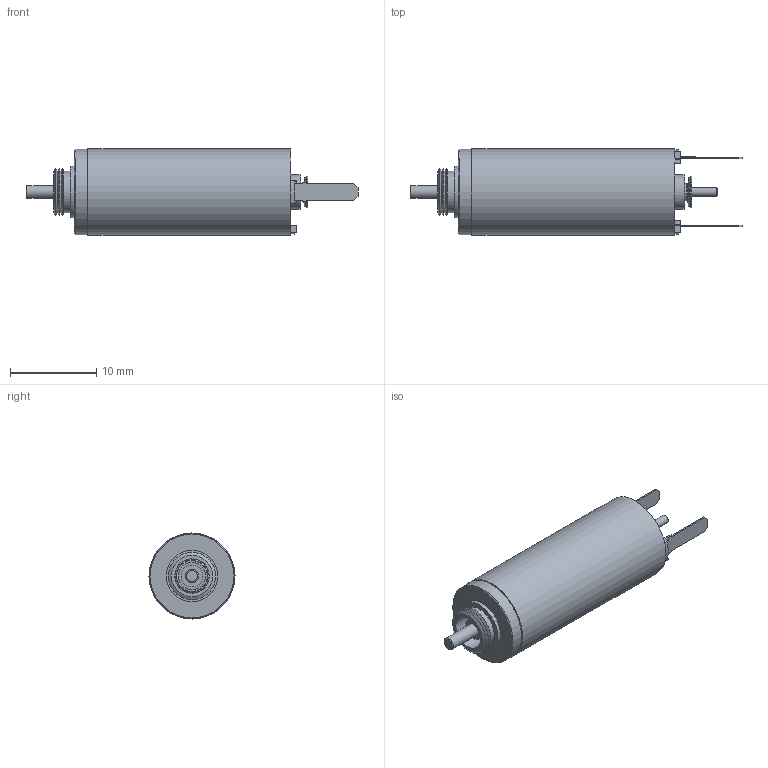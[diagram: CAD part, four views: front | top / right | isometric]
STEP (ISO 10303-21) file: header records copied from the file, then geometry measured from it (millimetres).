
FILE_DESCRIPTION(/* description */ (''),/* implementation_level */ '2;1');
FILE_NAME(/* name */ 'C:\Users\raffaele\Downloads\Projects\E&D\ipt-to-step-conversion\10DC25N-PM.stp',/* time_stamp */ '2021-02-10T15:33:40+01:00',/* author */ ('AOM'),/* organization */ (''),/* preprocessor_version */ 'ST-DEVELOPER v18',/* originating_system */ 'Autodesk Inventor 2020',/* authorisation */ '');
FILE_SCHEMA (('AUTOMOTIVE_DESIGN { 1 0 10303 214 3 1 1 }'));
Length unit declared in the file: millimetre
Products named in the file (1): DCX 10 L - 10DC25N-PM
Bounding box: 38.6 x 10 x 10 mm (x, y, z)
Volume: 905.9 mm3; surface area: 2318.8 mm2
Topology: 9 solids, 11 shells, 561 faces, 1450 edges, 934 vertices
Faces by surface type: plane 250, cylinder 234, cone 52, bspline 18, torus 6, sphere 1
Full cylindrical faces by diameter (mm): 0.2 x1, 0.9 x2, 1 x4, 1.1 x4, 1.16 x1, 1.5 x3, 2 x1, 2.55 x1, 3.2 x1, 3.24 x1, 3.4 x1, 3.7 x1, 4 x3, 4.8 x1, 5 x1, 6 x1, 9.2 x2, 9.35 x1, 9.9 x1, 10 x1
Entity records: 19244 total; most frequent: CARTESIAN_POINT 4875, ORIENTED_EDGE 2900, DIRECTION 2825, EDGE_CURVE 1450, AXIS2_PLACEMENT_3D 1030, VERTEX_POINT 934, LINE 765, VECTOR 765
